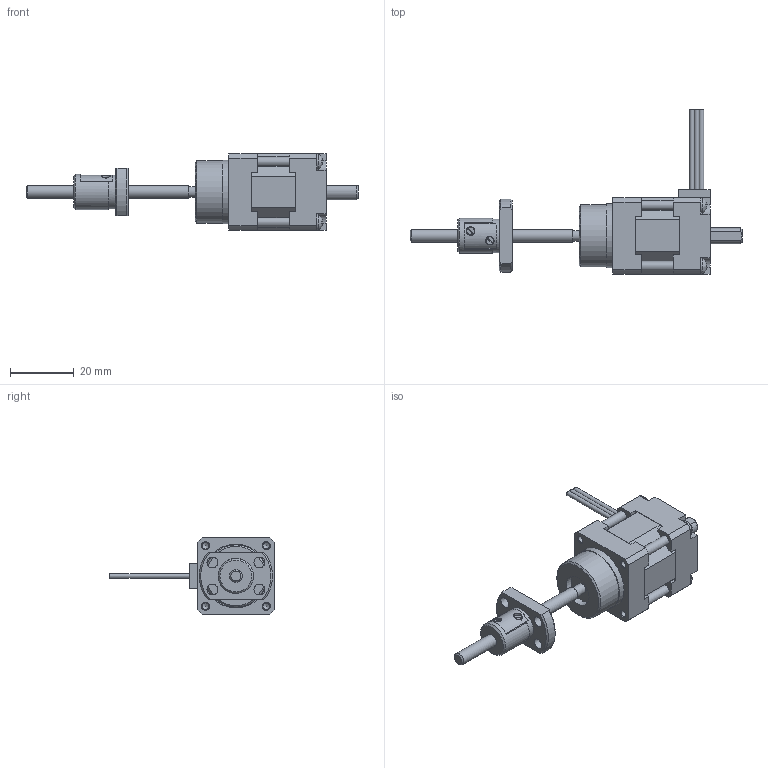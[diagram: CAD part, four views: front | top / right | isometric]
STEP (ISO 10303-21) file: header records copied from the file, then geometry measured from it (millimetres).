
FILE_DESCRIPTION( ( 'STEP AP214' ), ' ' );
FILE_NAME( 'p:/temp/worker_1/3260_1020/app_81_12017090514271261104230260eae72_000000_00_00_000000/format_0/TMB0401(15).stp', '2017-09-05T12:27:13', ( '' ), ( '' ), ' ', 'PARTsolutions', ' ' );
FILE_SCHEMA( ( 'AUTOMOTIVE_DESIGN { 1 0 10303 214 1 1 1 1 }' ) );
Length unit declared in the file: millimetre
Products named in the file (3): TMB0401(15); _TMB0401 (0)motor; _TMB0401 (15)nut
Assembly tree (2 placements, depth 2):
  TMB0401(15)
    _TMB0401 (0)motor
    _TMB0401 (15)nut
Bounding box: 104 x 51.5 x 24 mm (x, y, z)
Volume: 22760.8 mm3; surface area: 8182.6 mm2
Topology: 2 solids, 2 shells, 233 faces, 626 edges, 411 vertices
Faces by surface type: plane 160, cylinder 53, cone 16, bspline 4
Full cylindrical faces by diameter (mm): 1.5 x3, 2.113 x4, 2.7 x2, 3.3 x1, 3.4 x4, 4 x2, 5 x4, 10 x1, 10.5 x1, 11 x1, 19.5 x1, 20 x1
Entity records: 9153 total; most frequent: CARTESIAN_POINT 1675, ORIENTED_EDGE 1134, DIRECTION 1093, EDGE_CURVE 567, VERTEX_POINT 396, LINE 385, VECTOR 385, AXIS2_PLACEMENT_3D 354
